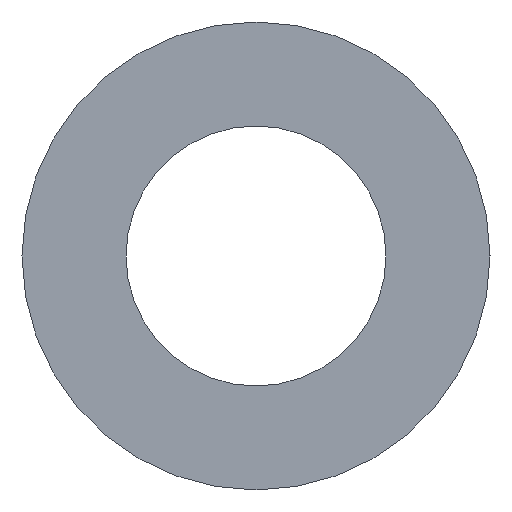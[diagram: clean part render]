
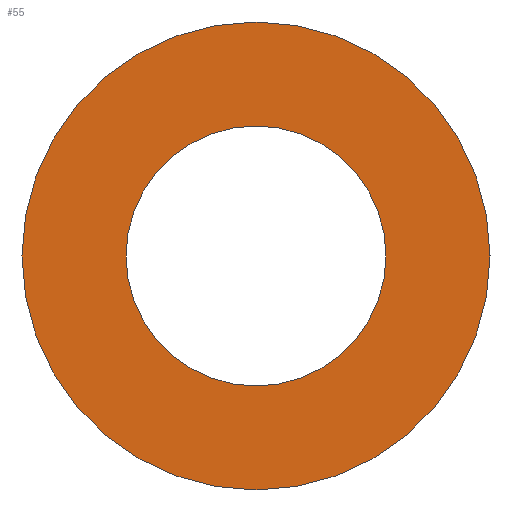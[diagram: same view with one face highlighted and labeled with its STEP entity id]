
A CAD part, left-side view. The second image highlights one B-rep face of the part: STEP entity #55.
In plain terms, the highlighted planar face has unit normal (-1, 0, 0).
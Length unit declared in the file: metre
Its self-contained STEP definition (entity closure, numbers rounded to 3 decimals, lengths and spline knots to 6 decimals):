
#13=PLANE('',#76);
#20=ORIENTED_EDGE('',*,*,#23,.T.);
#21=ORIENTED_EDGE('',*,*,#25,.F.);
#23=EDGE_CURVE('',#27,#27,#31,.T.);
#25=EDGE_CURVE('',#29,#29,#33,.T.);
#27=VERTEX_POINT('',#100);
#29=VERTEX_POINT('',#105);
#31=CIRCLE('',#71,0.001);
#33=CIRCLE('',#74,0.0018);
#40=EDGE_LOOP('',(#20));
#41=EDGE_LOOP('',(#21));
#48=FACE_BOUND('',#40,.T.);
#49=FACE_BOUND('',#41,.T.);
#55=ADVANCED_FACE('',(#48,#49),#13,.F.);
#71=AXIS2_PLACEMENT_3D('',#99,#83,#84);
#74=AXIS2_PLACEMENT_3D('',#104,#89,#90);
#76=AXIS2_PLACEMENT_3D('',#107,#93,#94);
#83=DIRECTION('',(1.,0.,0.));
#84=DIRECTION('',(0.,0.,-1.));
#89=DIRECTION('',(1.,0.,0.));
#90=DIRECTION('',(0.,0.,-1.));
#93=DIRECTION('',(1.,0.,0.));
#94=DIRECTION('',(0.,1.,0.));
#99=CARTESIAN_POINT('',(0.,-0.166879,-0.056082));
#100=CARTESIAN_POINT('',(0.,-0.166879,-0.057082));
#104=CARTESIAN_POINT('',(0.,-0.166879,-0.056082));
#105=CARTESIAN_POINT('',(0.,-0.166879,-0.057882));
#107=CARTESIAN_POINT('',(0.,-0.005129,-0.000839));
